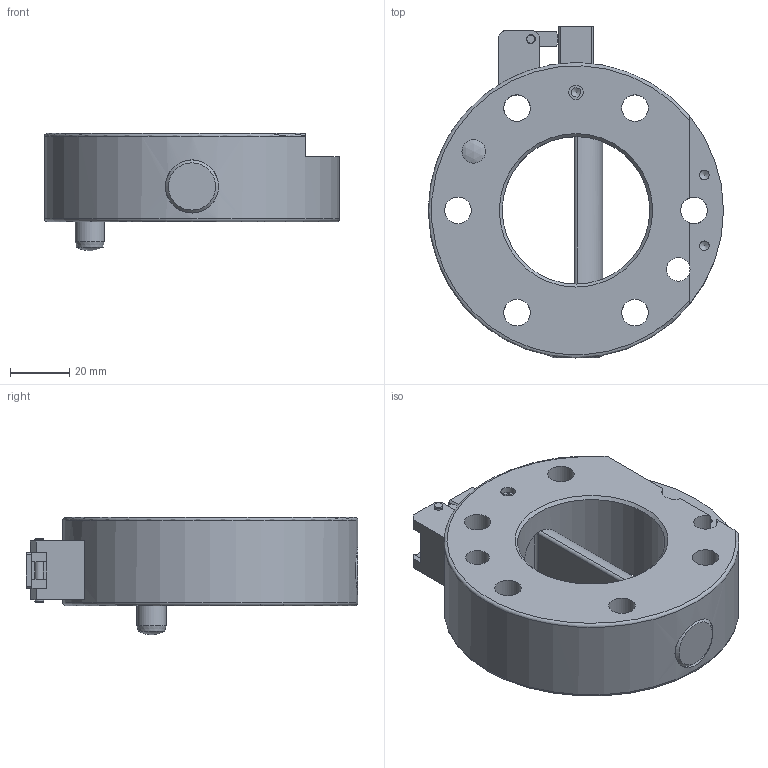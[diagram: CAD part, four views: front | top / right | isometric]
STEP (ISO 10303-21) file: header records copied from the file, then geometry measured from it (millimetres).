
FILE_DESCRIPTION((''),'2;1');
FILE_NAME('T:\CAD\Standard\Daten\3D-Datenbank\SWS\SWS100\step-Daten\G-SWS100-2OE-VS2.stp','2011-08-19T13:46:42',('Yvonne'),(''),'Autodesk Inventor 2011','Autodesk Inventor 2011','');
FILE_SCHEMA(('AUTOMOTIVE_DESIGN { 1 0 10303 214 1 1 1 1 }'));
Length unit declared in the file: millimetre
Products named in the file (1): Bauteil12
Bounding box: 100 x 112.5 x 39.75 mm (x, y, z)
Volume: 164550.8 mm3; surface area: 38150.9 mm2
Topology: 1 solids, 1 shells, 174 faces, 432 edges, 278 vertices
Faces by surface type: plane 82, cylinder 63, cone 15, torus 8, bspline 4, sphere 2
Full cylindrical faces by diameter (mm): 2.459 x1, 3 x7, 3.242 x2, 3.4 x2, 4 x1, 4.917 x3, 5.5 x2, 6.5 x2, 8 x2, 9 x6, 10 x1, 15 x6, 18 x1, 50 x1, 100 x1
Entity records: 5413 total; most frequent: CARTESIAN_POINT 1458, DIRECTION 762, ORIENTED_EDGE 692, EDGE_CURVE 346, AXIS2_PLACEMENT_3D 304, EDGE_LOOP 277, VERTEX_POINT 251, STYLED_ITEM 175
